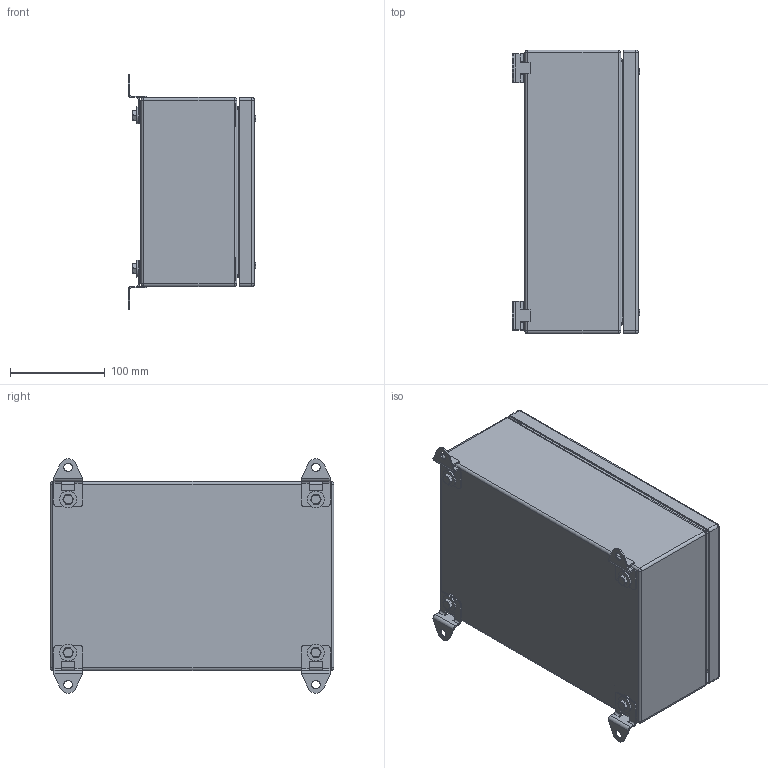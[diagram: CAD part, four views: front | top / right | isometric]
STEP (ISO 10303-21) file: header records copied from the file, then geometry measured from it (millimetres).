
FILE_DESCRIPTION(('STEP AP242'), '1');
FILE_NAME('ÊÊ Êîðîáêà êëåììíàÿ', '', ('UNSPECIFIED'), ('UNSPECIFIED'), 'C3D Converter', 'C3D Toolkit', '');
FILE_SCHEMA(('AP242_MANAGED_MODEL_BASED_3D_ENGINEERING_MIM_LF { 1 0 10303 442 1 1 4 }'));
Length unit declared in the file: millimetre
Products named in the file (22): КК; 510; 520; 521; 530; 531; 540; 541; 203-0655.61; НК.КК; 551;  202-1103.15-00530; 501
Assembly tree (53 placements, depth 4):
  КК
    510
      520
        521
        (unnamed)
        (unnamed)  x4
      530  x4
        531
        (unnamed)
    540
      541
      (unnamed)
      203-0655.61  x4
    НК.КК  x4
      551
      (unnamed)
      (unnamed)
      (unnamed)
      (unnamed)
      (unnamed)
     202-1103.15-00530  x4
    501
    (unnamed)  x4
    (unnamed)  x4
    (unnamed)  x4
    (unnamed)  x4
Bounding box: 135.19 x 300 x 248 mm (x, y, z)
Volume: 560611.3 mm3; surface area: 680176 mm2
Topology: 70 solids, 70 shells, 1114 faces, 2514 edges, 1532 vertices
Faces by surface type: plane 640, cylinder 294, cone 102, torus 38, sphere 24, bspline 16
Full cylindrical faces by diameter (mm): 4 x4, 4.134 x4, 4.917 x8, 5 x4, 5.2 x8, 5.8 x4, 6 x10, 6.4 x12, 6.5 x8, 6.6 x4, 6.647 x4, 8 x4, 9 x4, 11 x4, 11.5 x4, 12 x4, 18 x8
Entity records: 18527 total; most frequent: CARTESIAN_POINT 6819, DIRECTION 2073, ORIENTED_EDGE 1820, EDGE_CURVE 910, AXIS2_PLACEMENT_3D 777, VERTEX_POINT 587, EDGE_LOOP 567, LINE 519
